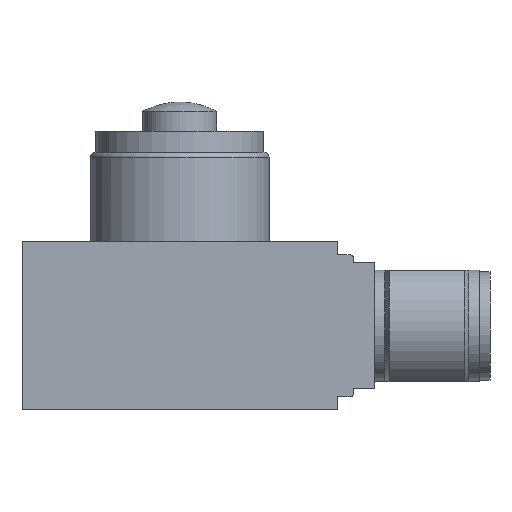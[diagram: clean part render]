
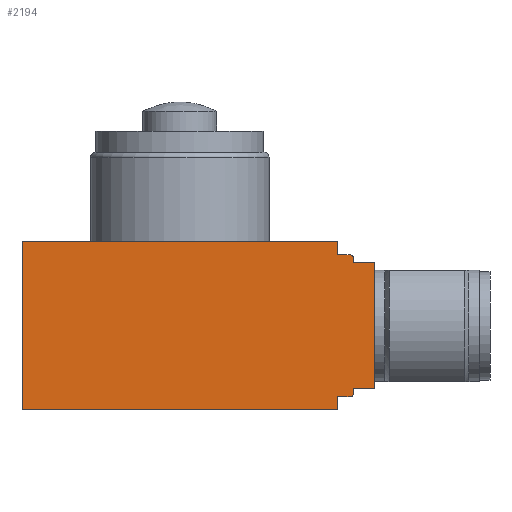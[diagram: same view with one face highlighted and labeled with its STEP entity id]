
A CAD part, front view. The second image highlights one B-rep face of the part: STEP entity #2194.
In plain terms, the highlighted planar face has unit normal (0, -1, 0) as drawn and (0, 0, -1) by its records, which use the part's own axes.
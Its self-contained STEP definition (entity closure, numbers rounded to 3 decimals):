
#49=LINE('',#3275,#237);
#57=LINE('',#3290,#245);
#89=LINE('',#3393,#277);
#105=LINE('',#3438,#293);
#121=LINE('',#3471,#309);
#122=LINE('',#3474,#310);
#123=LINE('',#3478,#311);
#124=LINE('',#3480,#312);
#125=LINE('',#3482,#313);
#126=LINE('',#3484,#314);
#127=LINE('',#3486,#315);
#128=LINE('',#3489,#316);
#237=VECTOR('',#2601,1.25);
#245=VECTOR('',#2609,1.25);
#277=VECTOR('',#2713,30.);
#293=VECTOR('',#2757,16.);
#309=VECTOR('',#2795,30.);
#310=VECTOR('',#2798,1.2);
#311=VECTOR('',#2801,0.45);
#312=VECTOR('',#2802,2.);
#313=VECTOR('',#2803,12.);
#314=VECTOR('',#2804,2.);
#315=VECTOR('',#2805,0.45);
#316=VECTOR('',#2808,1.2);
#455=PLANE('',#2377);
#587=FACE_OUTER_BOUND('',#734,.T.);
#734=EDGE_LOOP('',(#1680,#1681,#1682,#1683,#1684,#1685,#1686,#1687,#1688,
#1689,#1690,#1691,#1692,#1693));
#874=CIRCLE('',#2378,0.3);
#875=CIRCLE('',#2379,0.3);
#947=VERTEX_POINT('',#3267);
#950=VERTEX_POINT('',#3272);
#951=VERTEX_POINT('',#3274);
#958=VERTEX_POINT('',#3288);
#993=VERTEX_POINT('',#3391);
#1008=VERTEX_POINT('',#3436);
#1015=VERTEX_POINT('',#3473);
#1016=VERTEX_POINT('',#3475);
#1017=VERTEX_POINT('',#3477);
#1018=VERTEX_POINT('',#3479);
#1019=VERTEX_POINT('',#3481);
#1020=VERTEX_POINT('',#3483);
#1021=VERTEX_POINT('',#3485);
#1022=VERTEX_POINT('',#3487);
#1165=EDGE_CURVE('',#951,#950,#49,.T.);
#1173=EDGE_CURVE('',#947,#958,#57,.T.);
#1222=EDGE_CURVE('',#958,#993,#89,.T.);
#1244=EDGE_CURVE('',#1008,#993,#105,.T.);
#1261=EDGE_CURVE('',#1008,#951,#121,.T.);
#1262=EDGE_CURVE('',#950,#1015,#122,.T.);
#1263=EDGE_CURVE('',#1015,#1016,#874,.T.);
#1264=EDGE_CURVE('',#1016,#1017,#123,.T.);
#1265=EDGE_CURVE('',#1017,#1018,#124,.T.);
#1266=EDGE_CURVE('',#1019,#1018,#125,.T.);
#1267=EDGE_CURVE('',#1020,#1019,#126,.T.);
#1268=EDGE_CURVE('',#1021,#1020,#127,.T.);
#1269=EDGE_CURVE('',#1022,#1021,#875,.T.);
#1270=EDGE_CURVE('',#947,#1022,#128,.T.);
#1680=ORIENTED_EDGE('',*,*,#1262,.T.);
#1681=ORIENTED_EDGE('',*,*,#1263,.T.);
#1682=ORIENTED_EDGE('',*,*,#1264,.T.);
#1683=ORIENTED_EDGE('',*,*,#1265,.T.);
#1684=ORIENTED_EDGE('',*,*,#1266,.F.);
#1685=ORIENTED_EDGE('',*,*,#1267,.F.);
#1686=ORIENTED_EDGE('',*,*,#1268,.F.);
#1687=ORIENTED_EDGE('',*,*,#1269,.F.);
#1688=ORIENTED_EDGE('',*,*,#1270,.F.);
#1689=ORIENTED_EDGE('',*,*,#1173,.T.);
#1690=ORIENTED_EDGE('',*,*,#1222,.T.);
#1691=ORIENTED_EDGE('',*,*,#1244,.F.);
#1692=ORIENTED_EDGE('',*,*,#1261,.T.);
#1693=ORIENTED_EDGE('',*,*,#1165,.T.);
#2194=ADVANCED_FACE('',(#587),#455,.F.);
#2377=AXIS2_PLACEMENT_3D('',#3472,#2796,#2797);
#2378=AXIS2_PLACEMENT_3D('',#3476,#2799,#2800);
#2379=AXIS2_PLACEMENT_3D('',#3488,#2806,#2807);
#2601=DIRECTION('',(0.,-1.,0.));
#2609=DIRECTION('',(0.,-1.,0.));
#2713=DIRECTION('',(-1.,0.,0.));
#2757=DIRECTION('',(0.,-1.,0.));
#2795=DIRECTION('',(1.,0.,0.));
#2796=DIRECTION('center_axis',(0.,0.,1.));
#2797=DIRECTION('ref_axis',(1.,0.,0.));
#2798=DIRECTION('',(1.,0.,0.));
#2799=DIRECTION('center_axis',(0.,0.,-1.));
#2800=DIRECTION('ref_axis',(0.707,0.707,0.));
#2801=DIRECTION('',(0.,-1.,0.));
#2802=DIRECTION('',(1.,0.,0.));
#2803=DIRECTION('',(0.,1.,0.));
#2804=DIRECTION('',(1.,0.,0.));
#2805=DIRECTION('',(0.,1.,0.));
#2806=DIRECTION('center_axis',(0.,0.,1.));
#2807=DIRECTION('ref_axis',(0.707,-0.707,0.));
#2808=DIRECTION('',(1.,0.,0.));
#3267=CARTESIAN_POINT('',(15.,-14.75,-43.));
#3272=CARTESIAN_POINT('',(15.,-1.25,-43.));
#3274=CARTESIAN_POINT('',(15.,0.,-43.));
#3275=CARTESIAN_POINT('',(15.,0.,-43.));
#3288=CARTESIAN_POINT('',(15.,-16.,-43.));
#3290=CARTESIAN_POINT('',(15.,-14.75,-43.));
#3391=CARTESIAN_POINT('',(-15.,-16.,-43.));
#3393=CARTESIAN_POINT('',(15.,-16.,-43.));
#3436=CARTESIAN_POINT('',(-15.,0.,-43.));
#3438=CARTESIAN_POINT('',(-15.,0.,-43.));
#3471=CARTESIAN_POINT('',(-15.,0.,-43.));
#3472=CARTESIAN_POINT('Origin',(1.75,-16.,-43.));
#3473=CARTESIAN_POINT('',(16.2,-1.25,-43.));
#3474=CARTESIAN_POINT('',(15.,-1.25,-43.));
#3475=CARTESIAN_POINT('',(16.5,-1.55,-43.));
#3476=CARTESIAN_POINT('Origin',(16.2,-1.55,-43.));
#3477=CARTESIAN_POINT('',(16.5,-2.,-43.));
#3478=CARTESIAN_POINT('',(16.5,-1.55,-43.));
#3479=CARTESIAN_POINT('',(18.5,-2.,-43.));
#3480=CARTESIAN_POINT('',(16.5,-2.,-43.));
#3481=CARTESIAN_POINT('',(18.5,-14.,-43.));
#3482=CARTESIAN_POINT('',(18.5,-14.,-43.));
#3483=CARTESIAN_POINT('',(16.5,-14.,-43.));
#3484=CARTESIAN_POINT('',(16.5,-14.,-43.));
#3485=CARTESIAN_POINT('',(16.5,-14.45,-43.));
#3486=CARTESIAN_POINT('',(16.5,-14.45,-43.));
#3487=CARTESIAN_POINT('',(16.2,-14.75,-43.));
#3488=CARTESIAN_POINT('Origin',(16.2,-14.45,-43.));
#3489=CARTESIAN_POINT('',(15.,-14.75,-43.));
